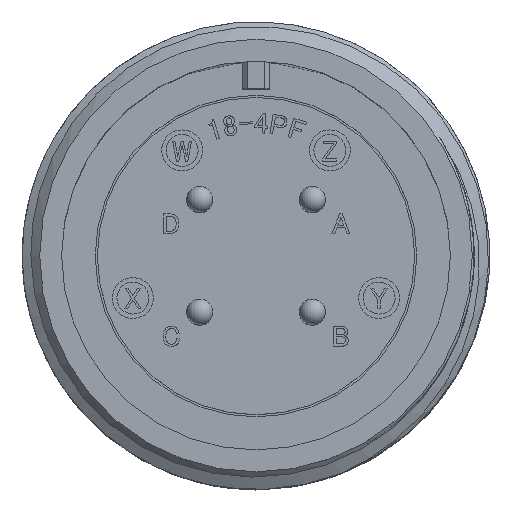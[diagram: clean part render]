
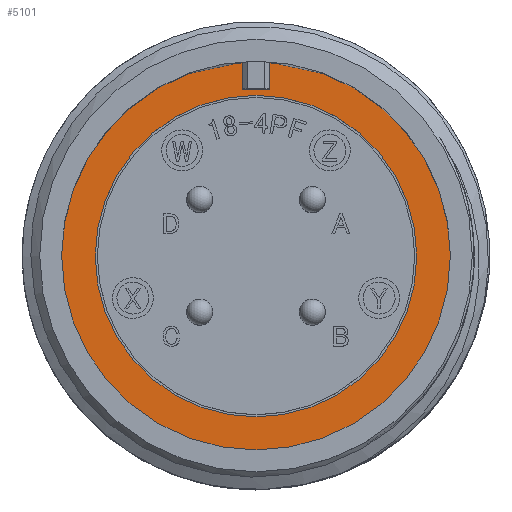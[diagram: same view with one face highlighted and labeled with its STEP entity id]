
A CAD part, top view. The second image highlights one B-rep face of the part: STEP entity #5101.
In plain terms, the highlighted planar face has unit normal (0, 0, 1).
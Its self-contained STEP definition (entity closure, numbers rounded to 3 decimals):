
#826 = DIRECTION ( 'NONE',  ( 0., 0., -1. ) ) ;
#1066 = ORIENTED_EDGE ( 'NONE', *, *, #1681, .T. ) ;
#1681 = EDGE_CURVE ( 'NONE', #20666, #20666, #24114, .T. ) ;
#1842 = EDGE_LOOP ( 'NONE', ( #11354 ) ) ;
#2394 = DIRECTION ( 'NONE',  ( 1., 0., 0. ) ) ;
#2732 = EDGE_LOOP ( 'NONE', ( #1066 ) ) ;
#4944 = CARTESIAN_POINT ( 'NONE',  ( 0., 0., -19.18 ) ) ;
#5101 = ADVANCED_FACE ( 'NONE', ( #21012, #15565 ), #5439, .T. ) ;
#5439 = PLANE ( 'NONE',  #14855 ) ;
#6673 = CARTESIAN_POINT ( 'NONE',  ( -11.84, 0., -19.18 ) ) ;
#7040 = EDGE_CURVE ( 'NONE', #16589, #16589, #9747, .T. ) ;
#7637 = CARTESIAN_POINT ( 'NONE',  ( 0., 9.795, -19.18 ) ) ;
#8304 = AXIS2_PLACEMENT_3D ( 'NONE', #11714, #826, #15761 ) ;
#9747 = CIRCLE ( 'NONE', #8304, 11.84 ) ;
#11354 = ORIENTED_EDGE ( 'NONE', *, *, #7040, .F. ) ;
#11450 = DIRECTION ( 'NONE',  ( -1., 0., 0. ) ) ;
#11714 = CARTESIAN_POINT ( 'NONE',  ( 0., 0., -19.18 ) ) ;
#12049 = DIRECTION ( 'NONE',  ( 0., 0., 1. ) ) ;
#14855 = AXIS2_PLACEMENT_3D ( 'NONE', #7637, #12049, #2394 ) ;
#15565 = FACE_OUTER_BOUND ( 'NONE', #1842, .T. ) ;
#15622 = CARTESIAN_POINT ( 'NONE',  ( -9.795, 0., -19.18 ) ) ;
#15761 = DIRECTION ( 'NONE',  ( -1., 0., 0. ) ) ;
#16589 = VERTEX_POINT ( 'NONE', #6673 ) ;
#17809 = DIRECTION ( 'NONE',  ( 0., 0., -1. ) ) ;
#20666 = VERTEX_POINT ( 'NONE', #15622 ) ;
#21012 = FACE_BOUND ( 'NONE', #2732, .T. ) ;
#24114 = CIRCLE ( 'NONE', #26623, 9.795 ) ;
#26623 = AXIS2_PLACEMENT_3D ( 'NONE', #4944, #17809, #11450 ) ;
